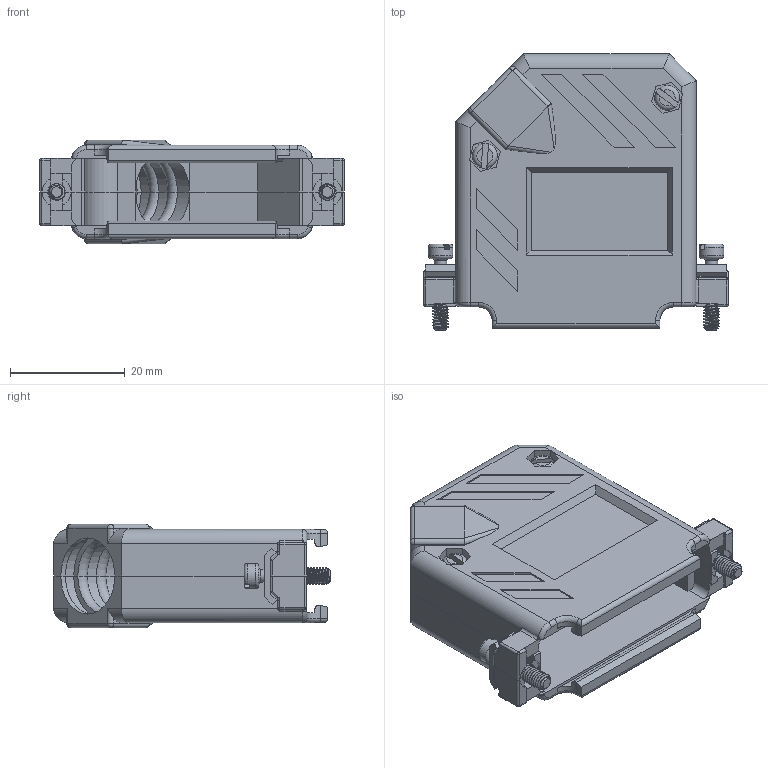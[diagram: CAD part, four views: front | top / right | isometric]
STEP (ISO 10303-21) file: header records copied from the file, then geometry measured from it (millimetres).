
FILE_DESCRIPTION((''),'2;1');
FILE_NAME('D:\_NTC CAD MODELS & ASSEMBLIES - STEP\STEP FILES\covers - ntc\cpp 45d series -\cpp_45d_25 -\cpp_45d_25_assy.stp','2016-04-28T16:53:57',('j_dipietro'),(''),'Autodesk Inventor 2012','Autodesk Inventor 2012','');
FILE_SCHEMA(('CONFIG_CONTROL_DESIGN'));
Length unit declared in the file: inch
Products named in the file (7): cpp_45d_25_assy; cpp_45d_25_bot; b71014144; b71314144; b72114064; b73190004; cpp_45d_25_top
Assembly tree (10 placements, depth 2):
  cpp_45d_25_assy
    cpp_45d_25_bot
    b71014144  x2
    b71314144  x2
    b72114064  x2
    b73190004  x2
    cpp_45d_25_top
Bounding box: 53.09 x 48.13 x 18.03 mm (x, y, z)
Volume: 13365 mm3; surface area: 14088.1 mm2
Topology: 10 solids, 10 shells, 590 faces, 1538 edges, 989 vertices
Faces by surface type: plane 362, cylinder 144, torus 49, sphere 16, bspline 15, cone 4
Full cylindrical faces by diameter (mm): 2.159 x2, 2.972 x2, 3.048 x4, 4.318 x4
Entity records: 19786 total; most frequent: CARTESIAN_POINT 6634, ORIENTED_EDGE 2696, DIRECTION 2665, EDGE_CURVE 1348, VECTOR 945, LINE 945, VERTEX_POINT 873, AXIS2_PLACEMENT_3D 860
